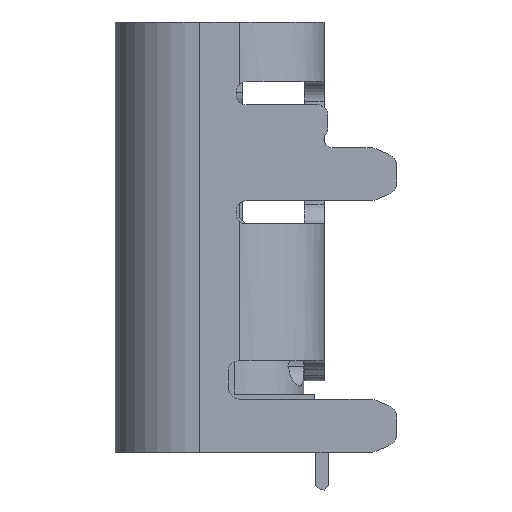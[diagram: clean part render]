
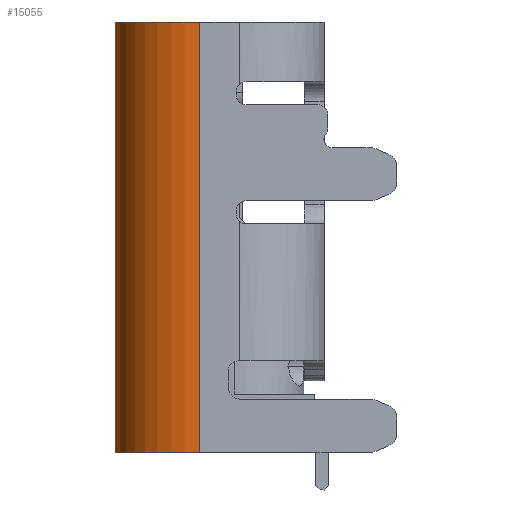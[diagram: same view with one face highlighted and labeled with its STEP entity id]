
A CAD part, left-side view. The second image highlights one B-rep face of the part: STEP entity #15055.
In plain terms, the highlighted cylindrical face has radius 1.28 mm (diameter 2.56 mm), a partial arc.
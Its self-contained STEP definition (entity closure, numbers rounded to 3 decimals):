
#2790=CARTESIAN_POINT('',(38.542,-752.894,0.));
#2791=DIRECTION('',(0.,0.,-1.));
#2792=DIRECTION('',(-1.,0.,0.));
#2793=AXIS2_PLACEMENT_3D('',#2790,#2791,#2792);
#2795=DIRECTION('',(0.,0.,-1.));
#2796=VECTOR('',#2795,6.5);
#2797=CARTESIAN_POINT('',(37.262,-752.894,0.));
#2798=LINE('',#2797,#2796);
#2799=DIRECTION('',(0.,0.,1.));
#2800=VECTOR('',#2799,6.5);
#2801=CARTESIAN_POINT('',(38.542,-751.614,
-6.5));
#2802=LINE('',#2801,#2800);
#3707=CARTESIAN_POINT('',(38.542,-752.894,
-6.5));
#3708=DIRECTION('',(0.,0.,1.));
#3709=DIRECTION('',(0.,1.,0.));
#3710=AXIS2_PLACEMENT_3D('',#3707,#3708,#3709);
#10527=CARTESIAN_POINT('',(38.542,-751.614,
-6.5));
#10529=VERTEX_POINT('',#10527);
#11158=CARTESIAN_POINT('',(37.262,-752.894,
-6.5));
#11159=VERTEX_POINT('',#11158);
#12003=CARTESIAN_POINT('',(38.542,-751.614,0.));
#12005=VERTEX_POINT('',#12003);
#12021=CARTESIAN_POINT('',(37.262,-752.894,0.));
#12022=VERTEX_POINT('',#12021);
#15042=CARTESIAN_POINT('',(38.542,-752.894,0.));
#15043=DIRECTION('',(0.,0.,-1.));
#15044=DIRECTION('',(-1.,0.,0.));
#15045=AXIS2_PLACEMENT_3D('',#15042,#15043,#15044);
#15046=CYLINDRICAL_SURFACE('',#15045,1.28);
#15047=ORIENTED_EDGE('',*,*,#13332,.F.);
#15049=ORIENTED_EDGE('',*,*,#15048,.T.);
#15051=ORIENTED_EDGE('',*,*,#15050,.F.);
#15052=ORIENTED_EDGE('',*,*,#14517,.T.);
#15053=EDGE_LOOP('',(#15047,#15049,#15051,#15052));
#15054=FACE_OUTER_BOUND('',#15053,.F.);
#2794=CIRCLE('',#2793,1.28);
#3711=CIRCLE('',#3710,1.28);
#13332=EDGE_CURVE('',#12022,#12005,#2794,.T.);
#14517=EDGE_CURVE('',#10529,#12005,#2802,.T.);
#15048=EDGE_CURVE('',#12022,#11159,#2798,.T.);
#15050=EDGE_CURVE('',#10529,#11159,#3711,.T.);
#15055=ADVANCED_FACE('',(#15054),#15046,.T.);
